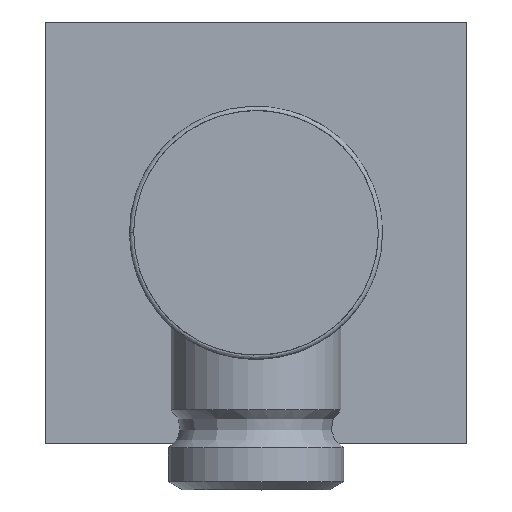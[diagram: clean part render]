
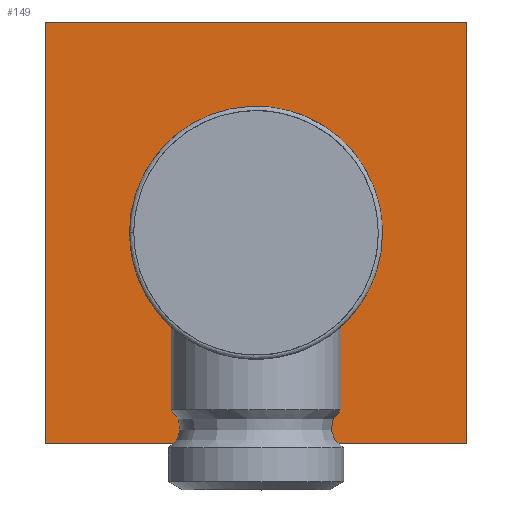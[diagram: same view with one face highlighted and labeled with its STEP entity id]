
A CAD part, front view. The second image highlights one B-rep face of the part: STEP entity #149.
In plain terms, the highlighted planar face has unit normal (0, -1, 0).
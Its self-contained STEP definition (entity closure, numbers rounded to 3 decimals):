
#17=CARTESIAN_POINT('',(-25.0,-5.,25.));
#18=VERTEX_POINT('',#17);
#25=CARTESIAN_POINT('',(25.0,-5.,25.));
#26=VERTEX_POINT('',#25);
#27=CARTESIAN_POINT('',(25.0,-5.,25.));
#28=DIRECTION('',(-1.0,0.0,0.0));
#29=VECTOR('',#28,50.0);
#30=LINE('',#27,#29);
#31=EDGE_CURVE('',#26,#18,#30,.T.);
#55=CARTESIAN_POINT('',(-25.0,-5.,-25.));
#56=VERTEX_POINT('',#55);
#63=CARTESIAN_POINT('',(-25.0,-5.,25.));
#64=DIRECTION('',(0.0,0.,-1.));
#65=VECTOR('',#64,50.);
#66=LINE('',#63,#65);
#67=EDGE_CURVE('',#18,#56,#66,.T.);
#86=CARTESIAN_POINT('',(25.0,-5.,-25.));
#87=VERTEX_POINT('',#86);
#94=CARTESIAN_POINT('',(-25.0,-5.,-25.));
#95=DIRECTION('',(1.0,0.0,0.0));
#96=VECTOR('',#95,50.0);
#97=LINE('',#94,#96);
#98=EDGE_CURVE('',#56,#87,#97,.T.);
#116=CARTESIAN_POINT('',(25.0,-5.,-25.));
#117=DIRECTION('',(0.0,0.,1.));
#118=VECTOR('',#117,50.);
#119=LINE('',#116,#118);
#120=EDGE_CURVE('',#87,#26,#119,.T.);
#138=CARTESIAN_POINT('',(25.01,-5.,25.01));
#139=DIRECTION('',(0.,-1.,0.));
#140=DIRECTION('',(-1.0,0.0,0.0));
#141=AXIS2_PLACEMENT_3D('',#138,#139,#140);
#142=PLANE('',#141);
#143=ORIENTED_EDGE('',*,*,#31,.T.);
#144=ORIENTED_EDGE('',*,*,#67,.T.);
#145=ORIENTED_EDGE('',*,*,#98,.T.);
#146=ORIENTED_EDGE('',*,*,#120,.T.);
#147=EDGE_LOOP('',(#143,#144,#145,#146));
#148=FACE_OUTER_BOUND('',#147,.T.);
#149=ADVANCED_FACE('',(#148),#142,.T.);
